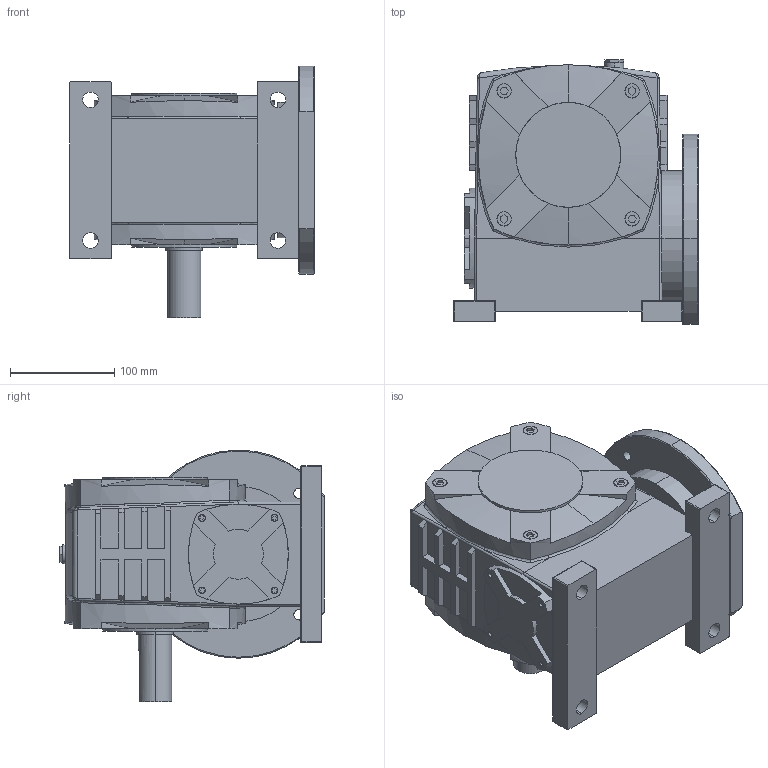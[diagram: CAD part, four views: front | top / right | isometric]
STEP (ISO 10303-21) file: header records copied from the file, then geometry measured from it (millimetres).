
FILE_DESCRIPTION (( 'STEP AP203' ), '1' );
FILE_NAME ('WPDA80.STEP', '2016-10-23T03:32:46', ( '' ), ( '' ), 'SwSTEP 2.0', 'SolidWorks 2014', '' );
FILE_SCHEMA (( 'CONFIG_CONTROL_DESIGN' ));
Length unit declared in the file: millimetre
Products named in the file (1): WPDA80
Bounding box: 235 x 254 x 242 mm (x, y, z)
Volume: 6077274.8 mm3; surface area: 341106.8 mm2
Topology: 14 solids, 14 shells, 1038 faces, 2667 edges, 1715 vertices
Faces by surface type: plane 624, bspline 186, cylinder 157, cone 26, torus 25, sphere 20
Entity records: 40228 total; most frequent: CARTESIAN_POINT 16096, ORIENTED_EDGE 5310, DIRECTION 4366, EDGE_CURVE 2655, VECTOR 1786, LINE 1786, VERTEX_POINT 1715, AXIS2_PLACEMENT_3D 1290
